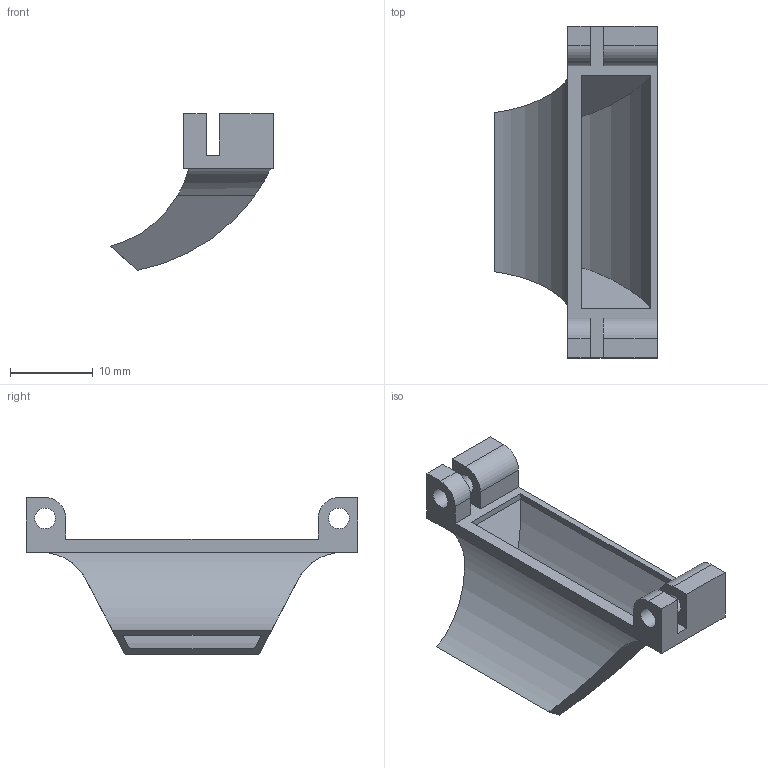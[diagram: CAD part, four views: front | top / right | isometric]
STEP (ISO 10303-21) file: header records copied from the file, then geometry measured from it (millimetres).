
FILE_DESCRIPTION(('STEP AP214'), '1');
FILE_NAME('ñîïëî ëåâîå', '', ('UNSPECIFIED'), ('UNSPECIFIED'), 'C3D Converter', 'C3D Toolkit', '');
FILE_SCHEMA(('AUTOMOTIVE_DESIGN { 1 0 10303 214 3 1 1}'));
Length unit declared in the file: millimetre
Bounding box: 19.62 x 40 x 18.88 mm (x, y, z)
Volume: 1448.4 mm3; surface area: 3023.1 mm2
Topology: 1 solids, 2 shells, 47 faces, 124 edges, 82 vertices
Faces by surface type: plane 32, cylinder 15
Full cylindrical faces by diameter (mm): 2.5 x4
Entity records: 2024 total; most frequent: CARTESIAN_POINT 452, ORIENTED_EDGE 240, DIRECTION 222, EDGE_CURVE 120, LINE 90, VECTOR 90, VERTEX_POINT 82, AXIS2_PLACEMENT_3D 66
